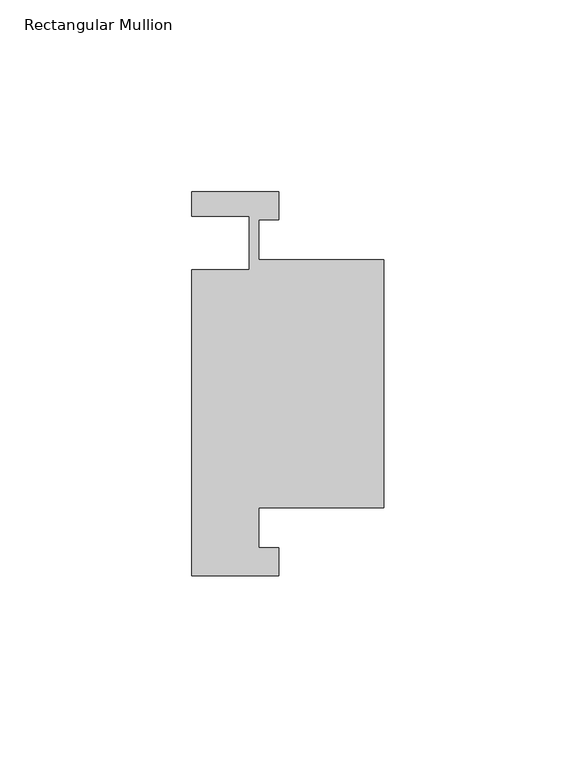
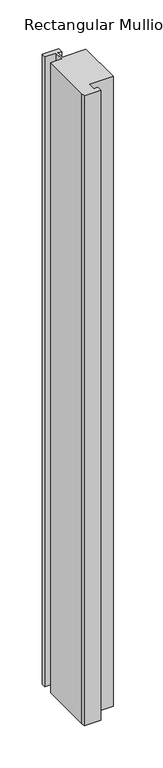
"""IFC4 building model written with IfcOpenShell, lengths in millimetres: member geometry, Rectangular Mullion : Trim-Horizontal-Teknion-Focus-FWOC."""

from ifc_helpers import new_model, si_unit, frame, origin, place, context, project, spatial, polyline, outline, extrude, source, transform, mapped, element, save


def rectangular_mullion_4fcc7cb8(model_context):
    return source(origin(), model_context, "Body", "SweptSolid", [
        extrude(outline(polyline([(-27.399989, 49.9999985), (-27.399989, 42.725), (-32.499989, 42.725), (-32.499989, 32.3000006), (0.0, 32.3000006), (0.0, -32.3000006), (-32.499989, -32.3000006), (-32.499989, -42.725), (-27.399989, -42.725), (-27.399989, -49.9999985), (-49.9999974, -49.9999985), (-49.9999974, -43.4027991), (-49.9999974, 29.6999985), (-34.999989, 29.6999985), (-34.999989, 43.6999985), (-49.9999974, 43.6999985), (-49.9999974, 49.9999985), (-27.399989, 49.9999985)])), frame((0.0, 0.0, -914.4), z_axis=(0.0, 0.0, 1.0), x_axis=(1.0, 0.0, 0.0)), (0.0, 0.0, 1.0), 914.4),
    ])


if __name__ == "__main__":
    model = new_model("IFC4")
    model_context = context("Model", 3, world=origin())
    ifc_project = project(units=[si_unit("LENGTHUNIT", "METRE", prefix="MILLI")], contexts=[model_context])
    site = spatial("IfcSite", under=ifc_project)
    building = spatial("IfcBuilding", under=site)
    placement = place(None, origin())
    rectangular_mullion_shape = rectangular_mullion_4fcc7cb8(model_context)
    element("IfcMember", 1, ObjectType="Rectangular Mullion : Trim-Horizontal-Teknion-Focus-FWOC", at=placement, inside=building, context=model_context, shape_type="MappedRepresentation", body=[
        mapped(rectangular_mullion_shape, transform((0.0, 0.0, 0.0), x_axis=(1.0, 0.0, 0.0), y_axis=(0.0, 1.0, 0.0), z_axis=(0.0, 0.0, 1.0))),
    ])
    save(model, "model.ifc")
